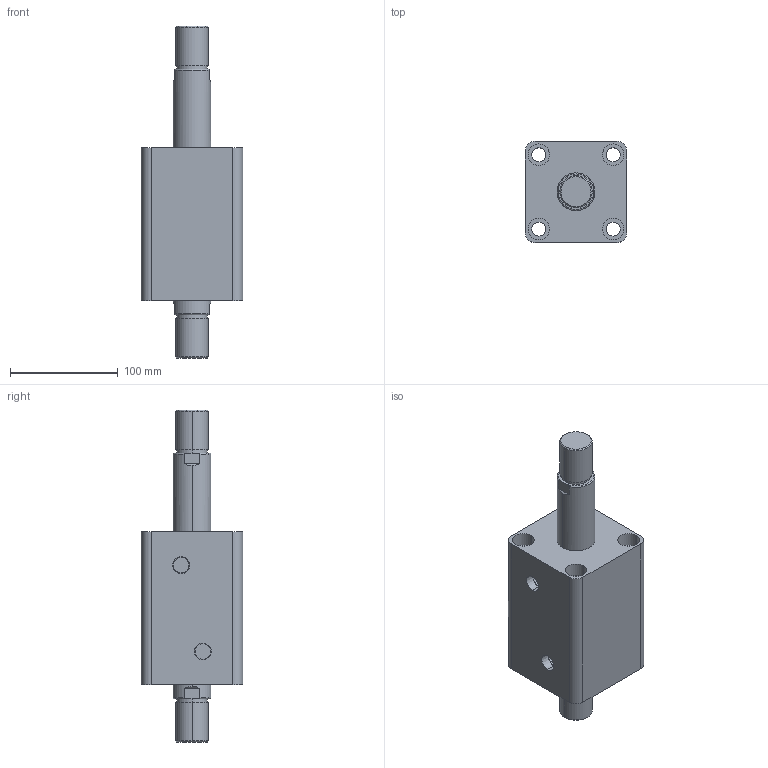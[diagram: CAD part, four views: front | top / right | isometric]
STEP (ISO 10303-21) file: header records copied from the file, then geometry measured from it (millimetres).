
FILE_DESCRIPTION (( 'STEP AP203' ), '1' );
FILE_NAME ('HTB-SW63-60W.STEP', '2019-10-07T10:06:35', ( '微软用户' ), ( '微软中国' ), 'SwSTEP 2.0', 'SolidWorks 2012', '' );
FILE_SCHEMA (( 'CONFIG_CONTROL_DESIGN' ));
Length unit declared in the file: millimetre
Products named in the file (3): HTB-SW63-60W; HTB-SW63-60W活塞杆; HTB-SW63-60掛极
Assembly tree (2 placements, depth 2):
  HTB-SW63-60W
    HTB-SW63-60掛极
    HTB-SW63-60W活塞杆
Bounding box: 94 x 94 x 308 mm (x, y, z)
Volume: 1155546.7 mm3; surface area: 159581.4 mm2
Topology: 2 solids, 2 shells, 108 faces, 240 edges, 156 vertices
Faces by surface type: cylinder 52, plane 36, torus 12, cone 8
Entity records: 3465 total; most frequent: CARTESIAN_POINT 645, DIRECTION 586, ORIENTED_EDGE 480, AXIS2_PLACEMENT_3D 249, EDGE_CURVE 240, VERTEX_POINT 156, EDGE_LOOP 138, CIRCLE 136
